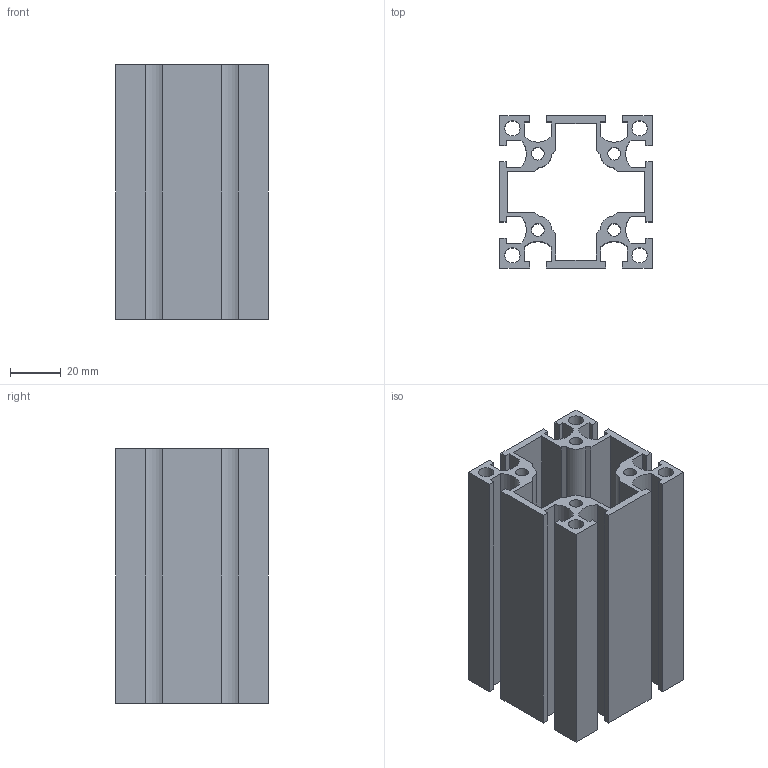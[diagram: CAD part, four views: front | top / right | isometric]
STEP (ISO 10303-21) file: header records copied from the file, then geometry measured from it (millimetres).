
FILE_DESCRIPTION(/* description */ ('Unknown'),/* implementation_level */ '2;1');
FILE_NAME(/* name */ 'NM6060',/* time_stamp */ '2026-08-31T11:18:57+08:00',/* author */ ('Unknown'),/* organization */ ('Unknown'),/* preprocessor_version */ 'ST-DEVELOPER v16.7',/* originating_system */ 'DEX',/* authorisation */ $);
FILE_SCHEMA (('AUTOMOTIVE_DESIGN {1 0 10303 214 3 1 1}'));
Length unit declared in the file: millimetre
Products named in the file (1): 6060-
Bounding box: 60 x 60 x 100 mm (x, y, z)
Volume: 108361.9 mm3; surface area: 80603.3 mm2
Topology: 1 solids, 1 shells, 102 faces, 300 edges, 200 vertices
Faces by surface type: plane 82, cylinder 20
Full cylindrical faces by diameter (mm): 5 x4, 6 x4
Entity records: 3390 total; most frequent: CARTESIAN_POINT 595, ORIENTED_EDGE 584, DIRECTION 538, EDGE_CURVE 292, LINE 252, VECTOR 252, VERTEX_POINT 200, AXIS2_PLACEMENT_3D 143
